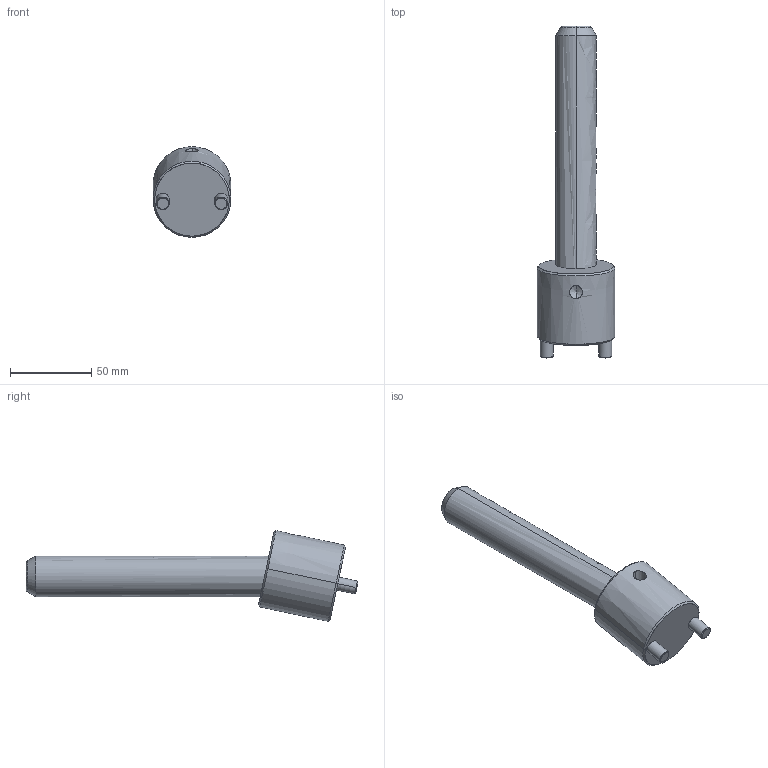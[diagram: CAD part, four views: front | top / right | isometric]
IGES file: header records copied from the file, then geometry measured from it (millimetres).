
Start section: START RECORD GO HERE.
Global section: file name: CI1225150.igs; native system: DASSAULT SYSTEMES CATIA V5 R20 - www.3ds.com; preprocessor: CATIA Version 5 Release 20 ; author: r.borello; organization: CFTORINO; date: 20190620.160001; units: millimetre
Bounding box: 48 x 204.52 x 55.89 mm (x, y, z)
Surface area: 29369.5 mm2 (no closed solid volume)
Topology: 0 solids, 0 shells, 39 faces, 162 edges, 160 vertices
Faces by surface type: revolution 32, plane 7
